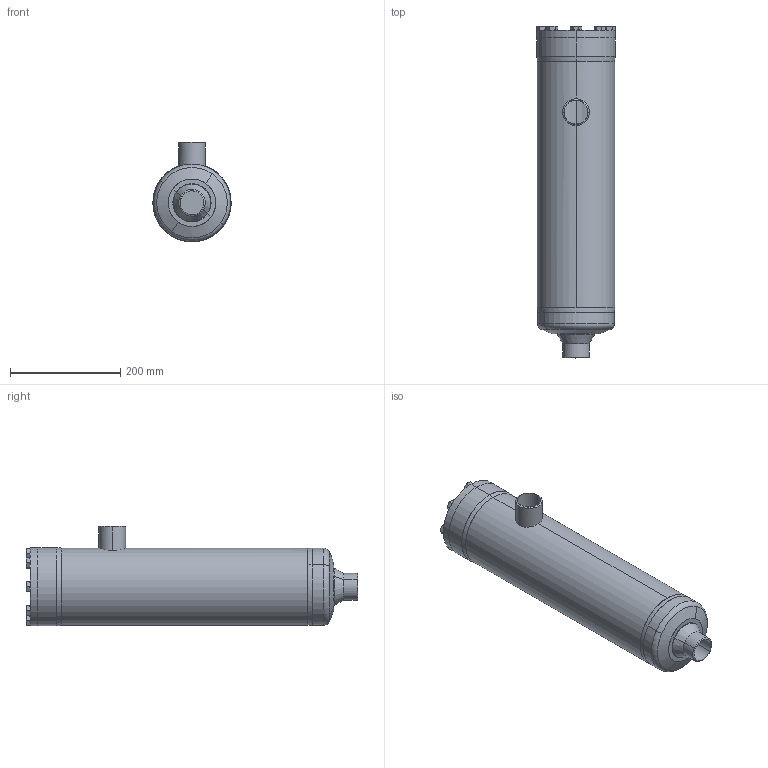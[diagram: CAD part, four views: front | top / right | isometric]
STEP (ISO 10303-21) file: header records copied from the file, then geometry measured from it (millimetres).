
FILE_DESCRIPTION (( 'STEP AP214' ), '1' );
FILE_NAME ('FT56700D14-DN40-3_PS40.STEP', '2010-09-13T08:29:21', ( 'Eckhard Grams' ), ( 'AWP Kälte Klima Armaturen GmbH' ), 'SwSTEP 2.0', 'SolidWorks 2002296', '' );
FILE_SCHEMA (( 'AUTOMOTIVE_DESIGN' ));
Length unit declared in the file: millimetre
Products named in the file (14): FT56700D14-DN40-3_PS40; Geh-kpl-FT-DN40-3_Standard; Gehäuse-FT-DN20-50_PS40_40-3; FT Boden-Führungsrohr DN40_PS25_Standard; bead-Bo-Fü-20-50_Standard; Boden-FT-DN20-80_DN 20 bis 50-4 PN 40; Führungsrohr-FT-DN20-50_DN 40; Rohrstutzen-FT-DN20-80_DN 40; Kopfstück-FT-DN20-50_PS40_Standard; bead40-Geh-Ko3_Standard; bead40-Geh-Bo1_Standard; FT Deckel-Schrauben-DN20-50_PS25_Standard; Deckel56700E15-DN20-50_PS40_Standard; Sechskantschraube-DIN933_M12x 30
Assembly tree (20 placements, depth 4):
  FT56700D14-DN40-3_PS40
    Geh-kpl-FT-DN40-3_Standard
      bead40-Geh-Ko3_Standard
      Kopfstück-FT-DN20-50_PS40_Standard
      bead40-Geh-Bo1_Standard
      Rohrstutzen-FT-DN20-80_DN 40
      Gehäuse-FT-DN20-50_PS40_40-3
      FT Boden-Führungsrohr DN40_PS25_Standard
        Boden-FT-DN20-80_DN 20 bis 50-4 PN 40
        Führungsrohr-FT-DN20-50_DN 40
        bead-Bo-Fü-20-50_Standard
    FT Deckel-Schrauben-DN20-50_PS25_Standard
      Sechskantschraube-DIN933_M12x 30  x8
      Deckel56700E15-DN20-50_PS40_Standard
Bounding box: 142.78 x 601.28 x 181 mm (x, y, z)
Volume: 2070960 mm3; surface area: 623289 mm2
Topology: 17 solids, 17 shells, 401 faces, 874 edges, 514 vertices
Faces by surface type: cone 170, cylinder 109, plane 98, bspline 12, torus 8, sphere 4
Entity records: 11188 total; most frequent: CARTESIAN_POINT 5401, DIRECTION 1150, ORIENTED_EDGE 988, AXIS2_PLACEMENT_3D 494, EDGE_CURVE 494, VERTEX_POINT 304, EDGE_LOOP 280, CIRCLE 254
